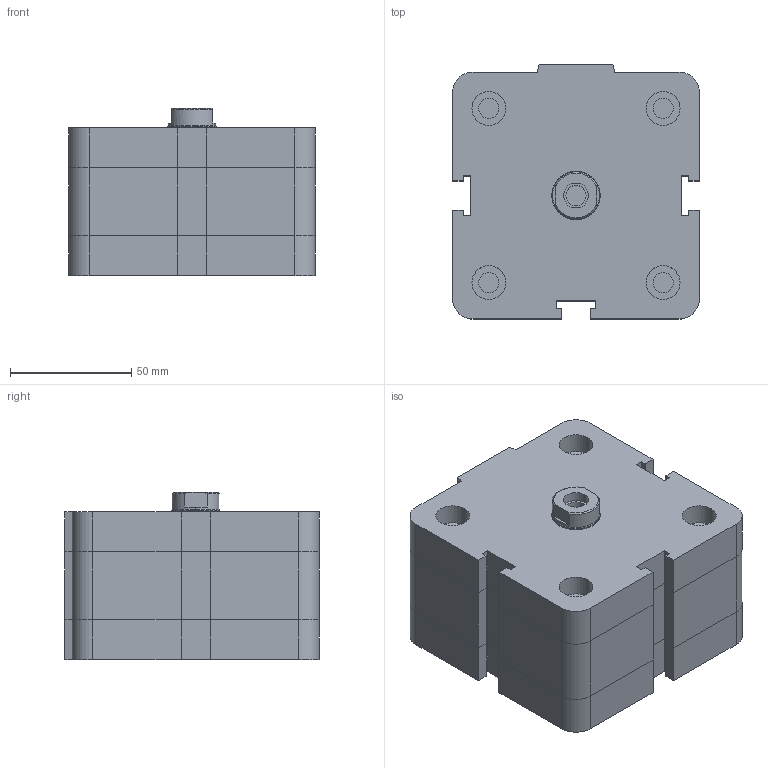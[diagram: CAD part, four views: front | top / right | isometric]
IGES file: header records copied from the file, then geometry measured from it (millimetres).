
Global section: file name: No Iges File Name specified; native system: Autodesk Inventor 2009; preprocessor: AutoDesk Inventor Iges Exporter R2009; author: rivolro1; date: 20081219.153242; units: millimetre
Bounding box: 102 x 105 x 69 mm (x, y, z)
Volume: 601098.4 mm3; surface area: 60071.5 mm2
Topology: 2 solids, 2 shells, 187 faces, 410 edges, 248 vertices
Faces by surface type: plane 112, bspline 39, revolution 16, cylinder 16, cone 4
